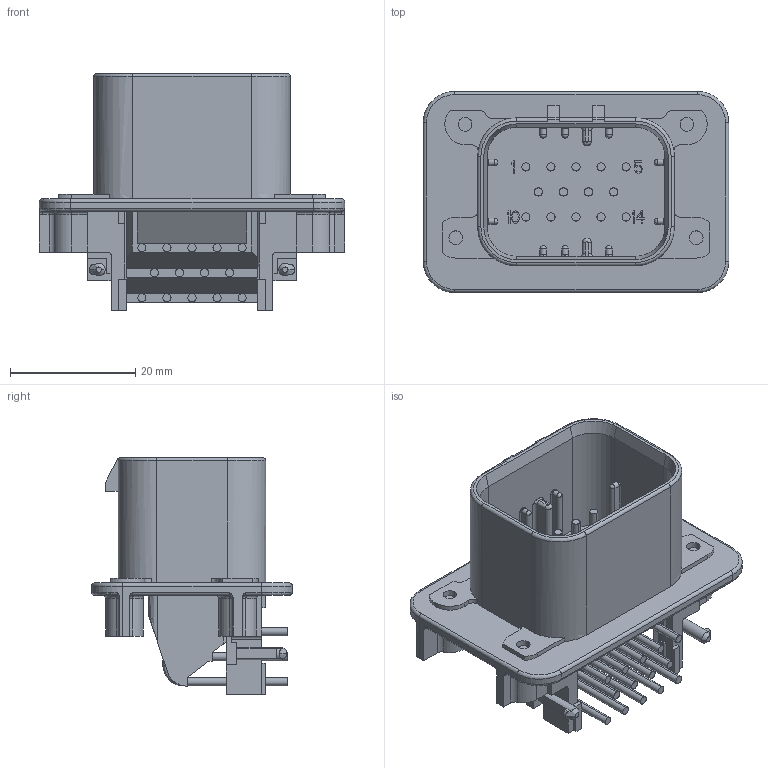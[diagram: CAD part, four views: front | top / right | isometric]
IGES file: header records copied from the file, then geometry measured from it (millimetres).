
Start section:  PTC IGES file: c-776266-1-b-3d.igs
Global section: file name: c-776266-1-b-3d.igs; native system: Pro/ENGINEER by Parametric Technology Corporation; preprocessor: 2010430; author: workeradm; organization: Unknown; units: millimetre
Bounding box: 48.8 x 32.1 x 37.8 mm (x, y, z)
Surface area: 10655.6 mm2 (no closed solid volume)
Topology: 0 solids, 0 shells, 664 faces, 3460 edges, 3450 vertices
Faces by surface type: bspline 379, revolution 283, extrusion 2
